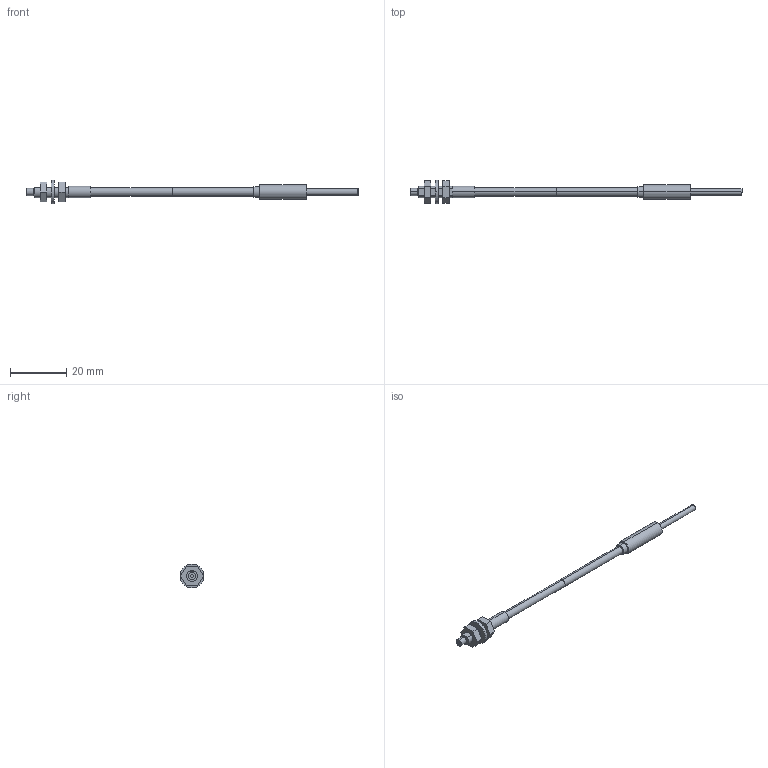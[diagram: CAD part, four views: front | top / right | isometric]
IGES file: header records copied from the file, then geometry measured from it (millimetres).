
Start section: SolidWorks IGES FILE using analytic representation for surfaces
Global section: file name: C:\Documents and Settings\yk0651\デスクトップ\3D_catalog_050929\0_IGES\FT-H20-M1.IGS; native system: SolidWorks 2004 by SolidWorks Corporation; preprocessor: Version 5.3; author: yk0651; date: 051002.175857; units: millimetre
Bounding box: 118 x 8.5 x 8.5 mm (x, y, z)
Volume: 1247.1 mm3; surface area: 1743.1 mm2
Topology: 7 solids, 7 shells, 60 faces, 120 edges, 80 vertices
Faces by surface type: plane 33, revolution 27
